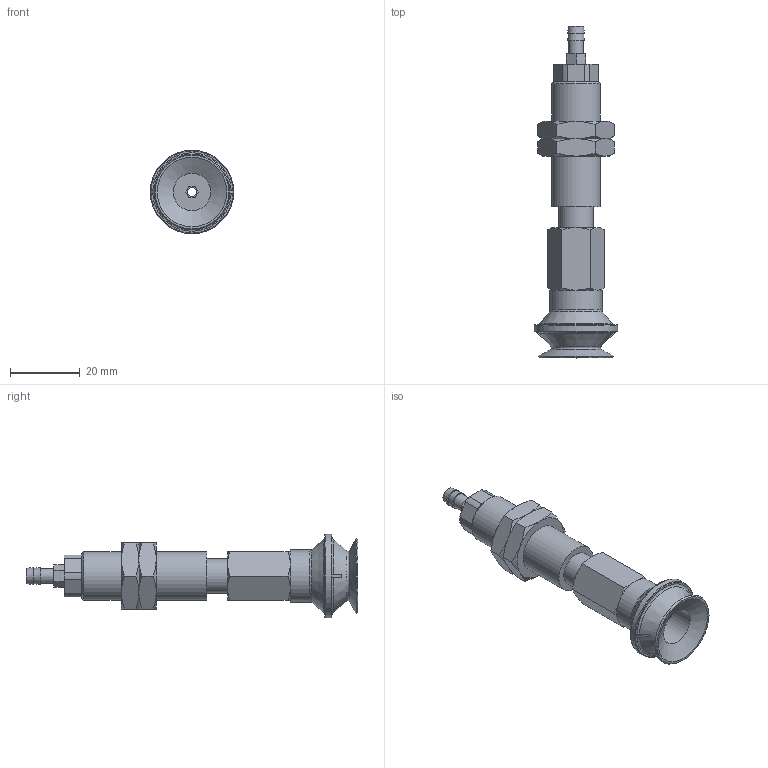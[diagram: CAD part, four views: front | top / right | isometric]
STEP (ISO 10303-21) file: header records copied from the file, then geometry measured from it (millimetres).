
FILE_DESCRIPTION(('STEP AP203'),'1');
FILE_NAME('-T.stp','2025-08-27T01:13:43',(' '),(' '),'Spatial InterOp 3D',' ',' ');
FILE_SCHEMA(('CONFIG_CONTROL_DESIGN'));
Length unit declared in the file: millimetre
Products named in the file (8): BNABPBTS-20-6-※-T; ADAPTER; NAPBTS-20-6--M; Adapter20-T-NAPB; Nut-20-S-PB; NAPBTS-20-6--F; BPBG-20-※; T
Assembly tree (8 placements, depth 2):
  BNABPBTS-20-6-※-T
    ADAPTER
    NAPBTS-20-6--M
    Adapter20-T-NAPB
    Nut-20-S-PB  x2
    NAPBTS-20-6--F
    BPBG-20-※
    T
Bounding box: 24 x 95.5 x 24 mm (x, y, z)
Volume: 14589.9 mm3; surface area: 11560.7 mm2
Topology: 8 solids, 8 shells, 157 faces, 337 edges, 207 vertices
Faces by surface type: plane 69, cone 54, cylinder 25, torus 9
Full cylindrical faces by diameter (mm): 2.5 x1, 3 x3, 4.134 x2, 4.3 x1, 4.6 x1, 5 x2, 10 x2, 10.8 x1, 11 x1, 12.917 x2, 14 x1, 15 x1, 24 x1
Entity records: 4008 total; most frequent: CARTESIAN_POINT 889, DIRECTION 586, ORIENTED_EDGE 480, AXIS2_PLACEMENT_3D 251, EDGE_CURVE 240, EDGE_LOOP 198, VERTEX_POINT 170, FACE_OUTER_BOUND 159
